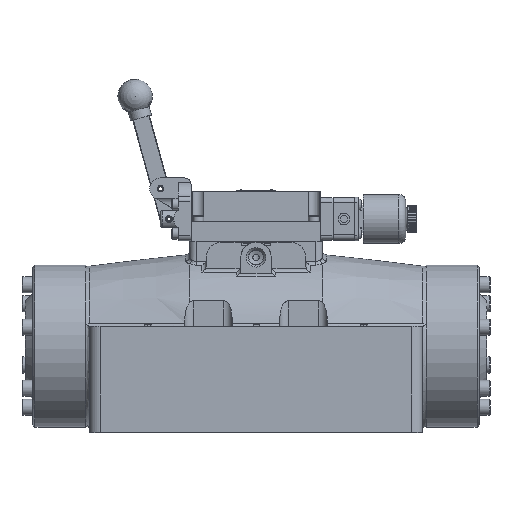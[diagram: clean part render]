
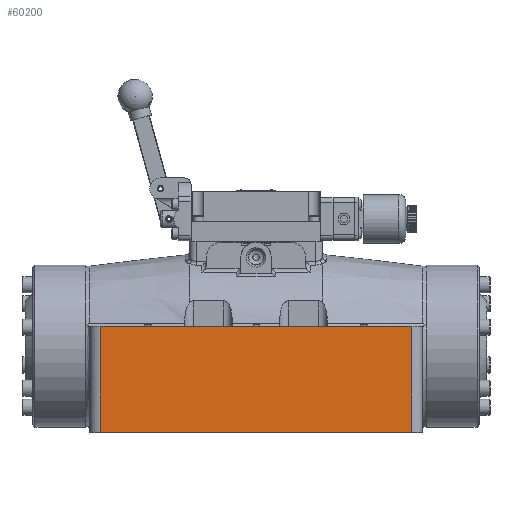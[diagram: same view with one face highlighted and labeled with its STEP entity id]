
A CAD part, top view. The second image highlights one B-rep face of the part: STEP entity #60200.
In plain terms, the highlighted planar face has unit normal (0, 0, 1).
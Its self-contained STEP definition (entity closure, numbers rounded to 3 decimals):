
#7227=FACE_OUTER_BOUND('',#10848,.T.);
#10848=EDGE_LOOP('',(#44608,#44609,#44610,#44611));
#14717=LINE('',#98701,#18829);
#14760=LINE('',#98933,#18872);
#14761=LINE('',#98937,#18873);
#14762=LINE('',#98938,#18874);
#18829=VECTOR('',#76558,1.);
#18872=VECTOR('',#76743,1.);
#18873=VECTOR('',#76748,1.);
#18874=VECTOR('',#76749,1.);
#25017=VERTEX_POINT('',#98686);
#25024=VERTEX_POINT('',#98699);
#25086=VERTEX_POINT('',#98932);
#25087=VERTEX_POINT('',#98936);
#31963=EDGE_CURVE('',#25024,#25017,#14717,.T.);
#32054=EDGE_CURVE('',#25017,#25086,#14760,.T.);
#32056=EDGE_CURVE('',#25087,#25024,#14761,.T.);
#32057=EDGE_CURVE('',#25087,#25086,#14762,.T.);
#44608=ORIENTED_EDGE('',*,*,#31963,.F.);
#44609=ORIENTED_EDGE('',*,*,#32056,.F.);
#44610=ORIENTED_EDGE('',*,*,#32057,.T.);
#44611=ORIENTED_EDGE('',*,*,#32054,.F.);
#54378=PLANE('',#65328);
#60200=ADVANCED_FACE('',(#7227),#54378,.T.);
#65328=AXIS2_PLACEMENT_3D('',#98935,#76746,#76747);
#76558=DIRECTION('',(-1.,0.,0.));
#76743=DIRECTION('',(0.,1.,0.));
#76746=DIRECTION('center_axis',(0.,0.,
1.));
#76747=DIRECTION('ref_axis',(1.,0.,0.));
#76748=DIRECTION('',(0.,-1.,0.));
#76749=DIRECTION('',(-1.,0.,0.));
#98686=CARTESIAN_POINT('',(-11.43,-6.35,8.573));
#98699=CARTESIAN_POINT('',(11.43,-6.35,8.573));
#98701=CARTESIAN_POINT('',(12.367,-6.35,8.573));
#98932=CARTESIAN_POINT('',(-11.43,1.429,8.573));
#98933=CARTESIAN_POINT('',(-11.43,-6.35,8.573));
#98935=CARTESIAN_POINT('Origin',(12.224,-6.35,8.573));
#98936=CARTESIAN_POINT('',(11.43,1.429,8.573));
#98937=CARTESIAN_POINT('',(11.43,-6.35,8.573));
#98938=CARTESIAN_POINT('',(-12.224,1.429,8.573));
